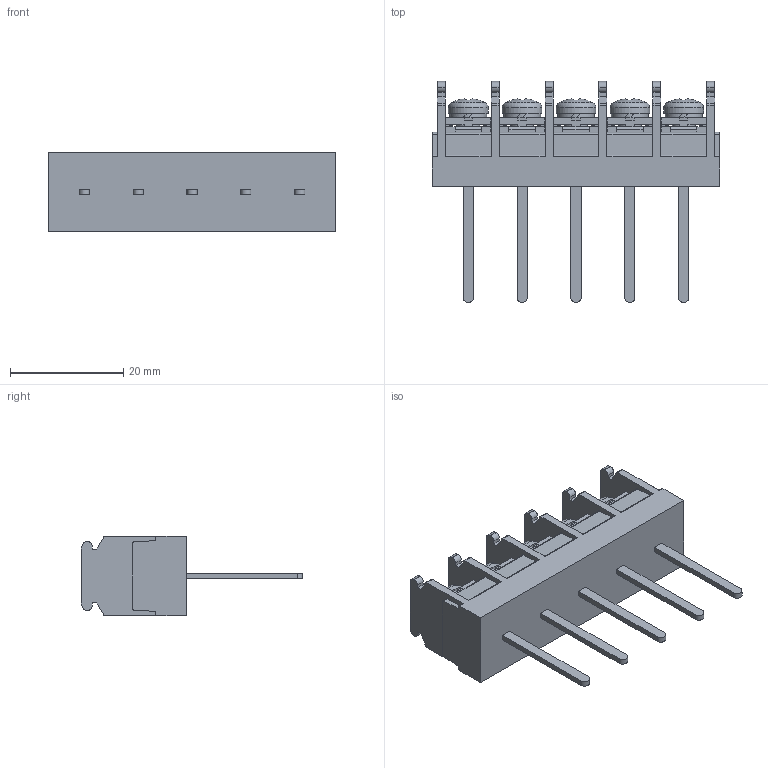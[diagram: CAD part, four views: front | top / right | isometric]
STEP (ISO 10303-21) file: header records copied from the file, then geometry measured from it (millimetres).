
FILE_DESCRIPTION(/* description */ ('Alibre Inc.'),/* implementation_level */ '2;1');
FILE_NAME(/* name */ 'export-B56AF2C1-DF1D-4754-81F3-CFF55F57682E',/* time_stamp */ '2021-02-13T15:12:51+09:00',/* author */ (''),/* organization */ (''),/* preprocessor_version */ 'ST-DEVELOPER v17',/* originating_system */ 'Alibre',/* authorisation */ '');
FILE_SCHEMA (('CONFIG_CONTROL_DESIGN'));
Length unit declared in the file: millimetre
Bounding box: 50.7 x 39 x 14 mm (x, y, z)
Volume: 8759.9 mm3; surface area: 6436.3 mm2
Topology: 1 solids, 22 shells, 990 faces, 2743 edges, 1807 vertices
Faces by surface type: plane 730, cylinder 116, bspline 104, cone 25, torus 10, sphere 5
Full cylindrical faces by diameter (mm): 4 x10, 7 x5
Entity records: 30236 total; most frequent: CARTESIAN_POINT 6476, ORIENTED_EDGE 5406, DIRECTION 3779, EDGE_CURVE 2703, VECTOR 1993, LINE 1993, VERTEX_POINT 1797, AXIS2_PLACEMENT_3D 1238
